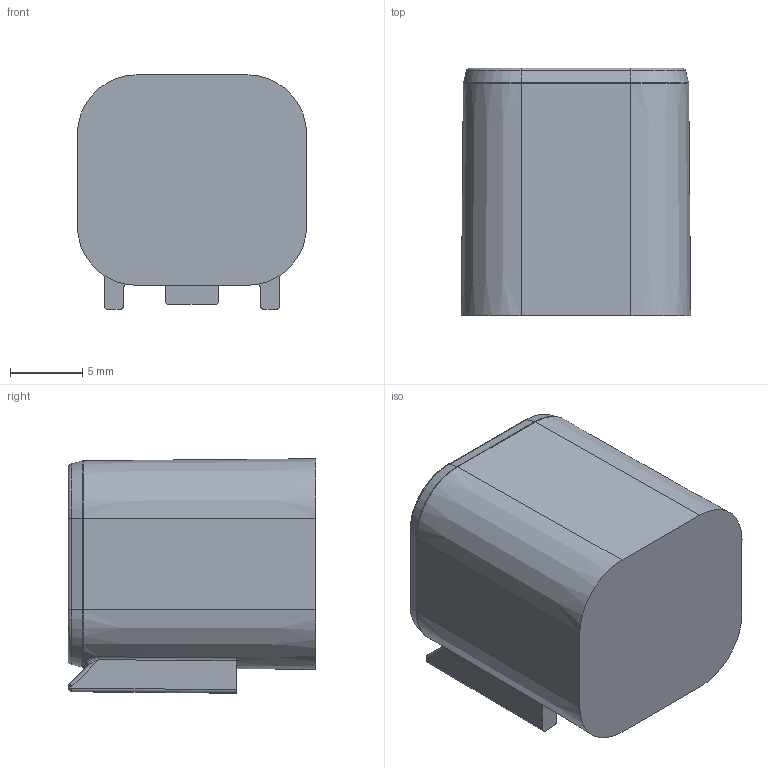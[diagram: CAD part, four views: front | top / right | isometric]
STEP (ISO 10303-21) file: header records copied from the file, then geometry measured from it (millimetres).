
FILE_DESCRIPTION(('CATIA V6 STEP','CAx-IF Rec.Pracs.--- Model Styling and Organization---1.5--- 2016-08-15','CAx-IF Rec.Pracs.---Supplemental Geometry---1.0---2011-11-01','CAx-IF Rec.Pracs.---Representation and Presentation of Product Manufacturing Information (PMI)---4.0---2014-10-13','CAx-IF Rec.Pracs.---User Defined Attributes---1.5---2016-08-15','CAx-IF Rec.Pracs.--- Composite Materials ---3.4---2017-06-13','CAx-IF Rec.Pracs.---Tessellated 3D Geometry---1.0---2015-12-17'),'2;1');
FILE_NAME('\\?\C:\root\24D718E808000000694098E2001D16E4.stp','2025-12-23T00:47:29+00:00',('none'),('none'),'3DEXPERIENCE Platform3DEXPERIENCE R2021x HotFix 10','3DEXPERIENCE Platform STEP AP242 v2','none');
FILE_SCHEMA(('AP242_MANAGED_MODEL_BASED_3D_ENGINEERING_MIM_LF {1 0 10303 442 1 1 4}'));
Length unit declared in the file: millimetre
Products named in the file (1): LV CONN,4LP,INTERFACE
Bounding box: 15.86 x 17.1 x 16.21 mm (x, y, z)
Surface area: 8357.4 mm2
Topology: 4 solids, 4 shells, 1256 faces, 2872 edges, 1604 vertices
Faces by surface type: plane 496, cylinder 307, torus 128, bspline 125, cone 96, sphere 72, extrusion 32
Entity records: 41553 total; most frequent: CARTESIAN_POINT 16311, ORIENTED_EDGE 5600, DIRECTION 4157, EDGE_CURVE 2800, AXIS2_PLACEMENT_3D 1716, VERTEX_POINT 1604, VECTOR 1454, LINE 1422
